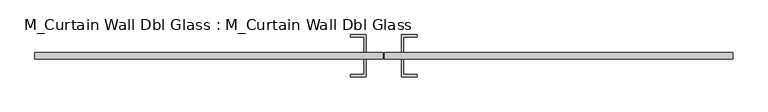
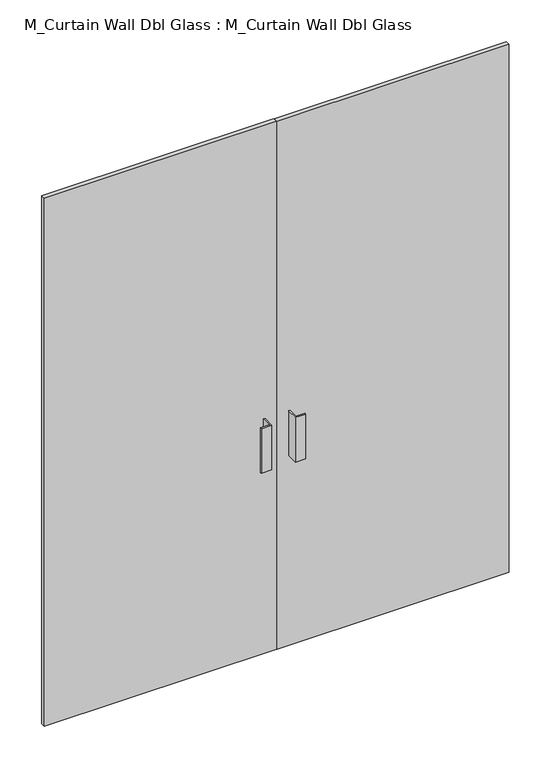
"""IFC4 building model written with IfcOpenShell, lengths in millimetres: plate geometry, M_Curtain Wall Dbl Glass : M_Curtain Wall Dbl Glass."""

from ifc_helpers import new_model, si_unit, frame, origin, origin_with_axes, place, context, project, spatial, polyline, outline, extrude, source, transform, mapped, element, save


def m_curtain_wall_dbl_glass_m_curtain_wall_dbl_glass_c5b9b46c(model_context):
    return source(origin(), model_context, "Body", "SweptSolid", [
        extrude(outline(polyline([(-1.5875, -30.95), (-1.5875, -50.0), (-1000.0, -50.0), (-1000.0, -30.95), (-1.5875, -30.95)])), origin_with_axes(), (0.0, 0.0, 1.0), 2400.0),
        extrude(outline(polyline([(1000.0, -30.95), (1000.0, -50.0), (1.5875, -50.0), (1.5875, -30.95), (1000.0, -30.95)])), origin_with_axes(), (0.0, 0.0, 1.0), 2400.0),
        extrude(outline(polyline([(-50.8, -100.8), (-95.25, -100.8), (-95.25, -94.45), (-57.15, -94.45), (-57.15, -50.0), (-50.8, -50.0), (-50.8, -100.8)])), frame((0.0, 0.0, 863.6), z_axis=(0.0, 0.0, 1.0), x_axis=(1.0, 0.0, 0.0)), (0.0, 0.0, 1.0), 203.2),
        extrude(outline(polyline([(50.8, -100.8), (50.8, -50.0), (57.15, -50.0), (57.15, -94.45), (95.25, -94.45), (95.25, -100.8), (50.8, -100.8)])), frame((0.0, 0.0, 863.6), z_axis=(0.0, 0.0, 1.0), x_axis=(1.0, 0.0, 0.0)), (0.0, 0.0, 1.0), 203.2),
        extrude(outline(polyline([(-50.8, 19.85), (-50.8, -30.95), (-57.15, -30.95), (-57.15, 13.5), (-95.25, 13.5), (-95.25, 19.85), (-50.8, 19.85)])), frame((0.0, 0.0, 863.6), z_axis=(0.0, 0.0, 1.0), x_axis=(1.0, 0.0, 0.0)), (0.0, 0.0, 1.0), 203.2),
        extrude(outline(polyline([(50.8, 19.85), (95.25, 19.85), (95.25, 13.5), (57.15, 13.5), (57.15, -30.95), (50.8, -30.95), (50.8, 19.85)])), frame((0.0, 0.0, 863.6), z_axis=(0.0, 0.0, 1.0), x_axis=(1.0, 0.0, 0.0)), (0.0, 0.0, 1.0), 203.2),
    ])


if __name__ == "__main__":
    model = new_model("IFC4")
    model_context = context("Model", 3, world=origin())
    ifc_project = project(units=[si_unit("LENGTHUNIT", "METRE", prefix="MILLI")], contexts=[model_context])
    site = spatial("IfcSite", under=ifc_project)
    building = spatial("IfcBuilding", under=site)
    placement = place(None, origin())
    m_curtain_wall_dbl_glass_m_curtain_wall_dbl_glass_shape = m_curtain_wall_dbl_glass_m_curtain_wall_dbl_glass_c5b9b46c(model_context)
    element("IfcPlate", 1, ObjectType="M_Curtain Wall Dbl Glass : M_Curtain Wall Dbl Glass", at=placement, inside=building, context=model_context, shape_type="MappedRepresentation", body=[
        mapped(m_curtain_wall_dbl_glass_m_curtain_wall_dbl_glass_shape, transform((0.0, 0.0, 0.0), x_axis=(1.0, 0.0, 0.0), y_axis=(0.0, 1.0, 0.0), z_axis=(0.0, 0.0, 1.0))),
    ])
    save(model, "model.ifc")
